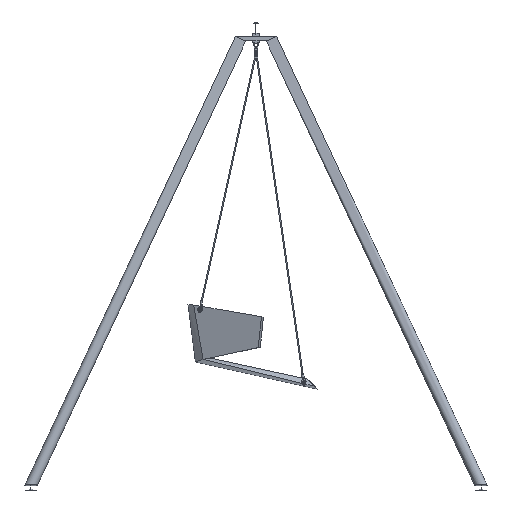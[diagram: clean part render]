
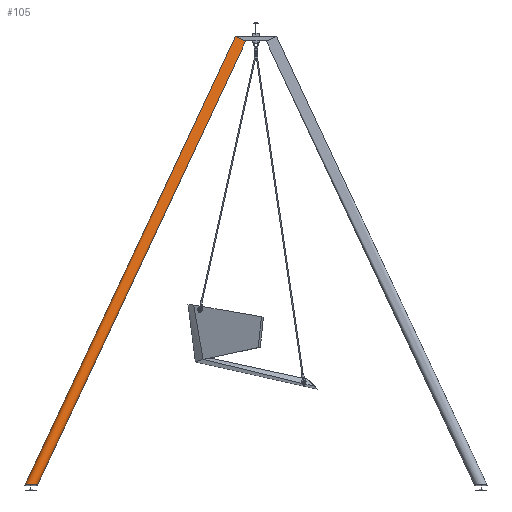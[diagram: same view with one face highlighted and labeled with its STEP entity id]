
A CAD part, left-side view. The second image highlights one B-rep face of the part: STEP entity #105.
In plain terms, the highlighted cylindrical face has radius 24.15 mm (diameter 48.3 mm), a partial arc.
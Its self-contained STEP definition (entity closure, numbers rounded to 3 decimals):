
#105=ADVANCED_FACE('',(#503),#5231,.T.);
#503=FACE_OUTER_BOUND('',#901,.T.);
#901=EDGE_LOOP('',(#1307,#1308,#1309,#1310));
#1307=ORIENTED_EDGE('',*,*,#2892,.F.);
#1308=ORIENTED_EDGE('',*,*,#2887,.T.);
#1309=ORIENTED_EDGE('',*,*,#2895,.F.);
#1310=ORIENTED_EDGE('',*,*,#2894,.F.);
#2887=EDGE_CURVE('',#4509,#4507,#3985,.T.);
#2892=EDGE_CURVE('',#4509,#4511,#3697,.T.);
#2894=EDGE_CURVE('',#4511,#4512,#3990,.T.);
#2895=EDGE_CURVE('',#4512,#4507,#3991,.T.);
#3697=B_SPLINE_CURVE_WITH_KNOTS('',3,(#6211,#6212,#6213,#6214,#6215,#6216,
#6217,#6218,#6219,#6220,#6221,#6222,#6223,#6224,#6225,#6226,#6227,#6228,
#6229),.UNSPECIFIED.,.F.,.F.,(4,2,2,2,3,2,2,2,4),(0.,10.086,20.147,
30.103,40.05,50.064,60.085,70.205,
80.352),.UNSPECIFIED.);
#3985=(
BOUNDED_CURVE()
B_SPLINE_CURVE(3,(#6182,#6183,#6184,#6185),.UNSPECIFIED.,.F.,.F.)
B_SPLINE_CURVE_WITH_KNOTS((4,4),(31.234,2124.77),
 .UNSPECIFIED.)
CURVE()
GEOMETRIC_REPRESENTATION_ITEM()
RATIONAL_B_SPLINE_CURVE((1.,1.,1.,1.))
REPRESENTATION_ITEM('')
);
#3990=(
BOUNDED_CURVE()
B_SPLINE_CURVE(3,(#6249,#6250,#6251,#6252),.UNSPECIFIED.,.F.,.F.)
B_SPLINE_CURVE_WITH_KNOTS((4,4),(8.766,2124.77),
 .UNSPECIFIED.)
CURVE()
GEOMETRIC_REPRESENTATION_ITEM()
RATIONAL_B_SPLINE_CURVE((1.,1.,1.,1.))
REPRESENTATION_ITEM('')
);
#3991=(
BOUNDED_CURVE()
B_SPLINE_CURVE(2,(#6253,#6254,#6255,#6256,#6257),.UNSPECIFIED.,.F.,.F.)
B_SPLINE_CURVE_WITH_KNOTS((3,2,3),(75.869,113.804,151.739),
 .UNSPECIFIED.)
CURVE()
GEOMETRIC_REPRESENTATION_ITEM()
RATIONAL_B_SPLINE_CURVE((1.,0.707,1.,0.707,1.))
REPRESENTATION_ITEM('')
);
#4507=VERTEX_POINT('',#6174);
#4509=VERTEX_POINT('',#6176);
#4511=VERTEX_POINT('',#6178);
#4512=VERTEX_POINT('',#6179);
#5231=CYLINDRICAL_SURFACE('',#5467,24.15);
#5467=AXIS2_PLACEMENT_3D('',#6058,#5760,$);
#5760=DIRECTION('',(0.11,-0.422,0.9));
#6058=CARTESIAN_POINT('',(-584.873,513.856,957.859));
#6174=CARTESIAN_POINT('',(-467.509,43.404,1903.452));
#6176=CARTESIAN_POINT('',(-698.787,927.394,19.848));
#6178=CARTESIAN_POINT('',(-701.269,980.606,20.152));
#6179=CARTESIAN_POINT('',(-467.509,87.129,1923.972));
#6182=CARTESIAN_POINT('',(-698.787,927.394,19.848));
#6183=CARTESIAN_POINT('',(-621.694,632.731,647.716));
#6184=CARTESIAN_POINT('',(-544.602,338.068,1275.584));
#6185=CARTESIAN_POINT('',(-467.509,43.404,1903.452));
#6211=CARTESIAN_POINT('',(-698.787,927.394,19.848));
#6212=CARTESIAN_POINT('',(-702.114,927.202,20.256));
#6213=CARTESIAN_POINT('',(-705.417,927.785,20.662));
#6214=CARTESIAN_POINT('',(-711.559,930.362,21.416));
#6215=CARTESIAN_POINT('',(-714.298,932.309,21.752));
#6216=CARTESIAN_POINT('',(-718.842,937.131,22.31));
#6217=CARTESIAN_POINT('',(-720.618,939.955,22.528));
#6218=CARTESIAN_POINT('',(-723.107,946.064,22.834));
#6219=CARTESIAN_POINT('',(-723.812,949.326,22.92));
#6220=CARTESIAN_POINT('',(-723.965,952.621,22.939));
#6221=CARTESIAN_POINT('',(-724.12,955.938,22.958));
#6222=CARTESIAN_POINT('',(-723.716,959.275,22.909));
#6223=CARTESIAN_POINT('',(-721.801,965.635,22.673));
#6224=CARTESIAN_POINT('',(-720.295,968.639,22.489));
#6225=CARTESIAN_POINT('',(-716.239,973.933,21.991));
#6226=CARTESIAN_POINT('',(-713.706,976.178,21.679));
#6227=CARTESIAN_POINT('',(-707.853,979.444,20.961));
#6228=CARTESIAN_POINT('',(-704.617,980.413,20.563));
#6229=CARTESIAN_POINT('',(-701.269,980.606,20.152));
#6249=CARTESIAN_POINT('',(-701.269,980.606,20.152));
#6250=CARTESIAN_POINT('',(-623.349,682.78,654.759));
#6251=CARTESIAN_POINT('',(-545.429,384.954,1289.365));
#6252=CARTESIAN_POINT('',(-467.509,87.129,1923.972));
#6253=CARTESIAN_POINT('',(-467.509,87.129,1923.972));
#6254=CARTESIAN_POINT('',(-491.511,85.995,1926.387));
#6255=CARTESIAN_POINT('',(-491.511,64.133,1916.127));
#6256=CARTESIAN_POINT('',(-491.511,42.271,1905.867));
#6257=CARTESIAN_POINT('',(-467.509,43.404,1903.452));
